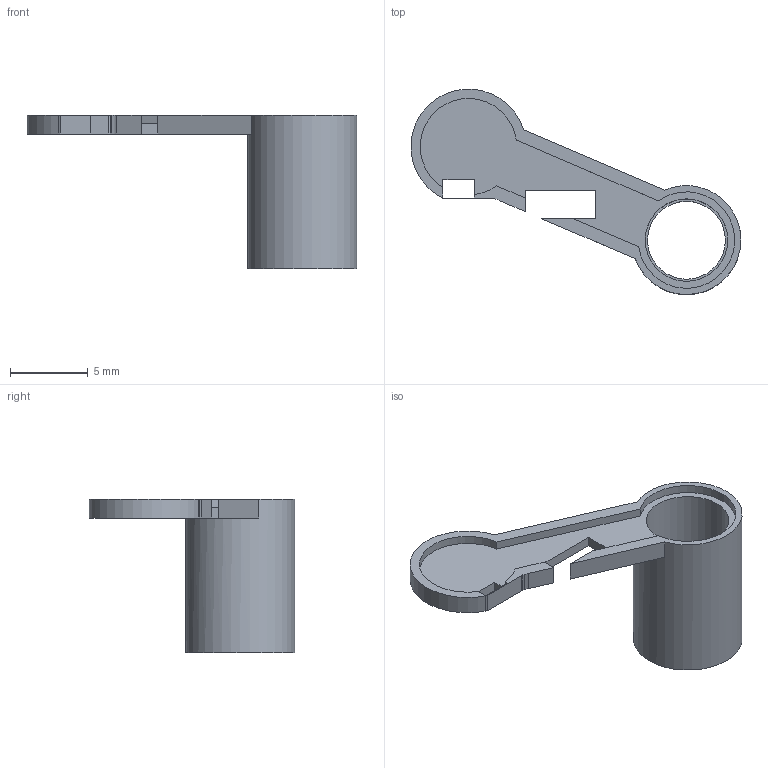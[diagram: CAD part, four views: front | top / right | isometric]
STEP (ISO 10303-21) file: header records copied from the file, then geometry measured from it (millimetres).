
FILE_DESCRIPTION(('Open CASCADE Model'),'2;1');
FILE_NAME('Open CASCADE Shape Model','2026-09-06T11:28:54',('Author'),( 'Open CASCADE'),'Open CASCADE STEP processor 7.7','Open CASCADE 7.7' ,'Unknown');
FILE_SCHEMA(('AUTOMOTIVE_DESIGN { 1 0 10303 214 1 1 1 1 }'));
Length unit declared in the file: millimetre
Products named in the file (1): Open CASCADE STEP translator 7.7 23
Bounding box: 21.19 x 13.19 x 9.85 mm (x, y, z)
Volume: 209 mm3; surface area: 652.3 mm2
Topology: 1 solids, 1 shells, 35 faces, 93 edges, 61 vertices
Faces by surface type: plane 22, cylinder 13
Full cylindrical faces by diameter (mm): 5 x1, 5.3 x3, 6.2 x2, 7 x1
Entity records: 2330 total; most frequent: CARTESIAN_POINT 442, DIRECTION 355, LINE 220, VECTOR 220, ORIENTED_EDGE 186, PCURVE 186, DEFINITIONAL_REPRESENTATION 186, EDGE_CURVE 93
